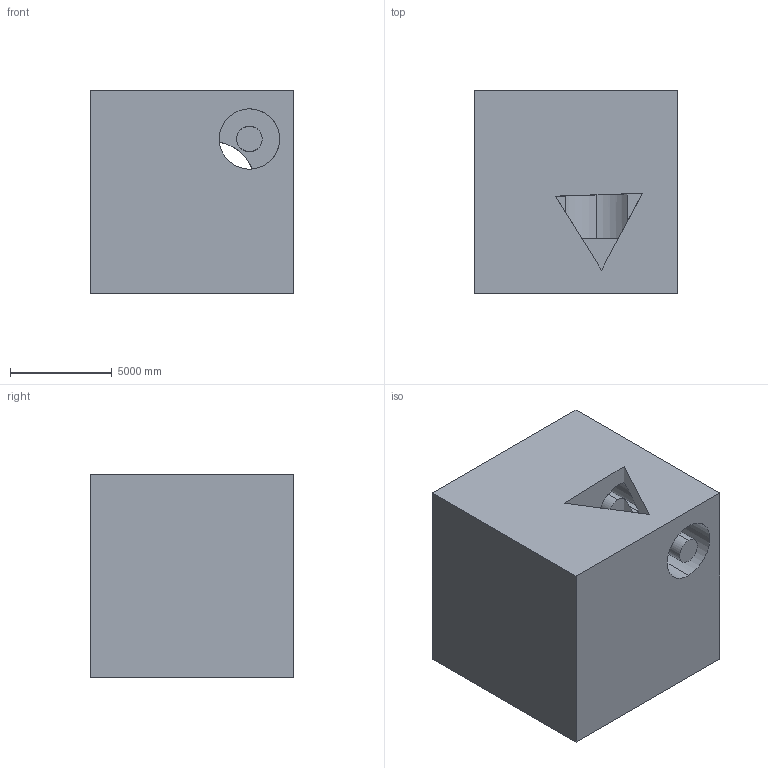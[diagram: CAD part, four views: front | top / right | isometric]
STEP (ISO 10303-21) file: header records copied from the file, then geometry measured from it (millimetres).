
FILE_DESCRIPTION (( 'STEP AP203' ), '1' );
FILE_NAME ('1298.STEP', '2022-08-18T13:37:37', ( 'user' ), ( '' ), 'SwSTEP 2.0', 'SolidWorks 2021', '' );
FILE_SCHEMA (( 'CONFIG_CONTROL_DESIGN' ));
Length unit declared in the file: centimetre
Products named in the file (1): 1298
Bounding box: 10000 x 10000 x 10000 mm (x, y, z)
Volume: 852168332969.5 mm3; surface area: 822067807 mm2
Topology: 2 solids, 2 shells, 34 faces, 87 edges, 58 vertices
Faces by surface type: plane 23, cylinder 11
Entity records: 1112 total; most frequent: CARTESIAN_POINT 246, ORIENTED_EDGE 174, DIRECTION 153, EDGE_CURVE 87, VERTEX_POINT 58, AXIS2_PLACEMENT_3D 53, LINE 47, VECTOR 47
